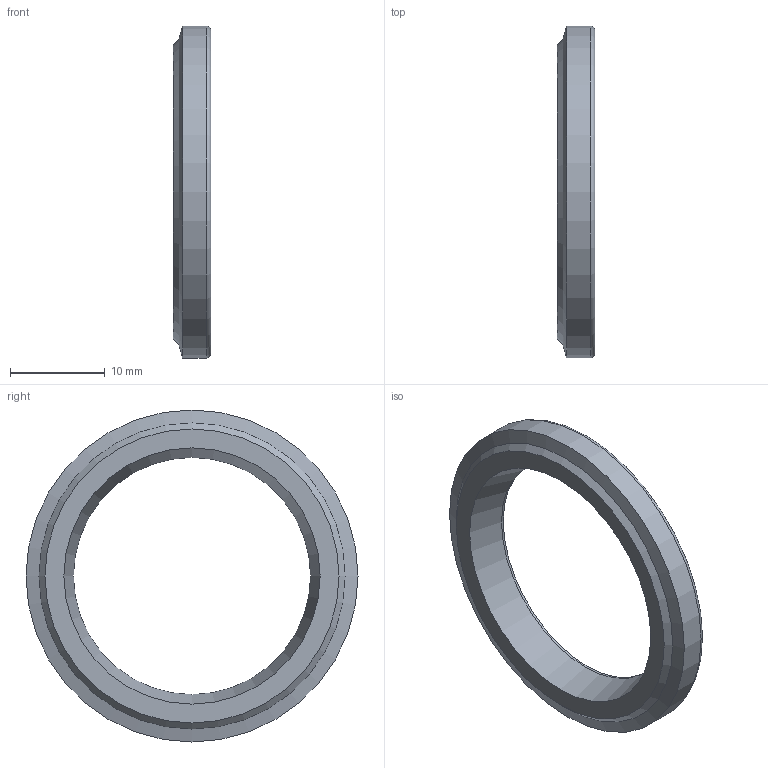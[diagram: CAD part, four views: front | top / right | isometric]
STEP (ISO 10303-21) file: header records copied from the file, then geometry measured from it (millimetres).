
FILE_DESCRIPTION(('STEP AP203'),'1');
FILE_NAME('D:/Desktop/BOSCH CAD/CBX/CBX-25.step','2022-02-17T07:20:11',(' '),(' '),'Spatial InterOp 3D',' ',' ');
FILE_SCHEMA(('CONFIG_CONTROL_DESIGN'));
Length unit declared in the file: millimetre
Products named in the file (1): 1
Bounding box: 4 x 35 x 35 mm (x, y, z)
Volume: 1557.4 mm3; surface area: 1646 mm2
Topology: 1 solids, 1 shells, 12 faces, 20 edges, 12 vertices
Faces by surface type: cone 4, plane 4, cylinder 3, torus 1
Full cylindrical faces by diameter (mm): 25 x1, 27.2 x1, 35 x1
Entity records: 292 total; most frequent: DIRECTION 50, CARTESIAN_POINT 37, AXIS2_PLACEMENT_3D 25, EDGE_LOOP 24, ORIENTED_EDGE 24, FACE_OUTER_BOUND 16, ADVANCED_FACE 12, EDGE_CURVE 12
